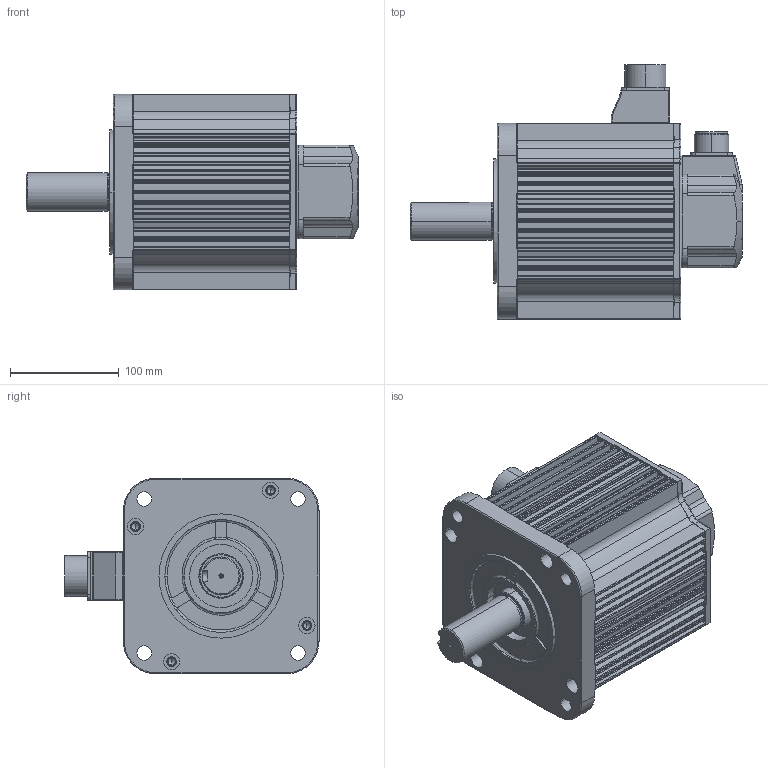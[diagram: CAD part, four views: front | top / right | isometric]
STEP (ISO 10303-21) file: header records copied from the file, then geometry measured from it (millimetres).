
FILE_DESCRIPTION (( 'STEP AP203' ), '1' );
FILE_NAME ('KANH-20B(BR).STEP', '2026-09-12T02:56:10', ( '' ), ( '' ), 'SwSTEP 2.0', 'SolidWorks 2023', '' );
FILE_SCHEMA (( 'CONFIG_CONTROL_DESIGN' ));
Length unit declared in the file: millimetre
Products named in the file (11): 10050523 GASKET_돌출형; □180 FLANGE; MS3102A 20-29P; □180 BRACKET_BR; 1005052200 ENCODER COVER; □180-146.5mm(2.0kW,BR,MS24); Ø35-KEY10X50; MS3102A 24_표준; KANH-20B(BR); 10050908 CONNECTOR BOX_MS22 or MS24; 10050907 RUBBER SEAL_MS22 or MS24
Assembly tree (10 placements, depth 2):
  KANH-20B(BR)
    Ø35-KEY10X50
    □180 FLANGE
    □180-146.5mm(2.0kW,BR,MS24)
    □180 BRACKET_BR
    1005052200 ENCODER COVER
    10050523 GASKET_돌출형
    MS3102A 20-29P
    10050907 RUBBER SEAL_MS22 or MS24
    10050908 CONNECTOR BOX_MS22 or MS24
    MS3102A 24_표준
Bounding box: 305.2 x 233.62 x 180 mm (x, y, z)
Volume: 1502327.6 mm3; surface area: 531412.1 mm2
Topology: 10 solids, 10 shells, 1764 faces, 4830 edges, 3140 vertices
Faces by surface type: cylinder 912, plane 605, torus 122, cone 88, bspline 35, sphere 2
Entity records: 60348 total; most frequent: CARTESIAN_POINT 13359, DIRECTION 10018, ORIENTED_EDGE 9588, EDGE_CURVE 4794, AXIS2_PLACEMENT_3D 3855, VERTEX_POINT 3140, VECTOR 2308, LINE 2308
